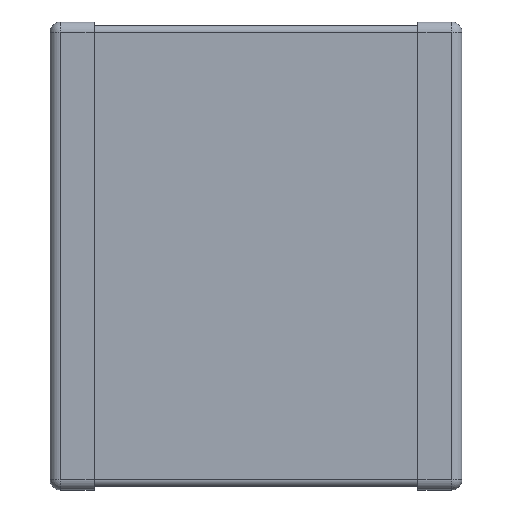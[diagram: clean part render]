
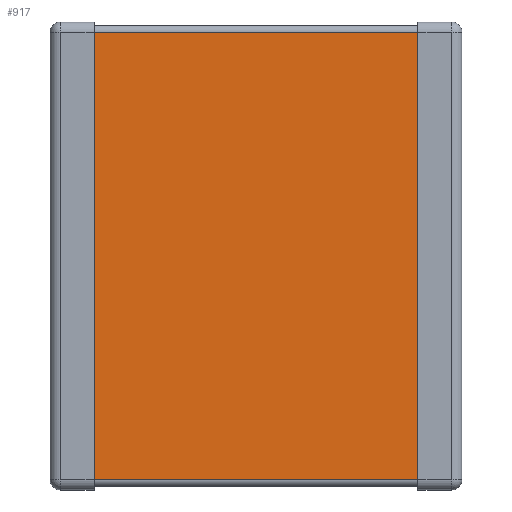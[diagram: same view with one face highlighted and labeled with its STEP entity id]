
A CAD part, front view. The second image highlights one B-rep face of the part: STEP entity #917.
In plain terms, the highlighted planar face has unit normal (0, -1, 0).
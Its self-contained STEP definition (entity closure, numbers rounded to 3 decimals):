
#27 = EDGE_CURVE ( 'NONE', #400, #821, #216, .T. ) ;
#36 = LINE ( 'NONE', #149, #249 ) ;
#44 = VERTEX_POINT ( 'NONE', #870 ) ;
#71 = ORIENTED_EDGE ( 'NONE', *, *, #405, .T. ) ;
#98 = CARTESIAN_POINT ( 'NONE',  ( -2.195, 0.047, 3.035 ) ) ;
#129 = CARTESIAN_POINT ( 'NONE',  ( -2.195, 0.047, -3.035 ) ) ;
#135 = VECTOR ( 'NONE', #879, 1000. ) ;
#149 = CARTESIAN_POINT ( 'NONE',  ( 500000., 0.047, -3.035 ) ) ;
#216 = LINE ( 'NONE', #494, #1268 ) ;
#249 = VECTOR ( 'NONE', #550, 1000. ) ;
#255 = EDGE_CURVE ( 'NONE', #44, #747, #36, .T. ) ;
#262 = CARTESIAN_POINT ( 'NONE',  ( -2.195, 0.047, 3.035 ) ) ;
#295 = PLANE ( 'NONE',  #488 ) ;
#299 = ORIENTED_EDGE ( 'NONE', *, *, #27, .T. ) ;
#301 = ORIENTED_EDGE ( 'NONE', *, *, #255, .F. ) ;
#304 = DIRECTION ( 'NONE',  ( 0., 1., 0. ) ) ;
#322 = LINE ( 'NONE', #98, #135 ) ;
#358 = LINE ( 'NONE', #433, #1232 ) ;
#400 = VERTEX_POINT ( 'NONE', #690 ) ;
#405 = EDGE_CURVE ( 'NONE', #821, #747, #322, .T. ) ;
#433 = CARTESIAN_POINT ( 'NONE',  ( 2.195, 0.047, 3.035 ) ) ;
#488 = AXIS2_PLACEMENT_3D ( 'NONE', #1269, #304, #703 ) ;
#494 = CARTESIAN_POINT ( 'NONE',  ( 500000., 0.047, 3.035 ) ) ;
#550 = DIRECTION ( 'NONE',  ( -1., 0., 0. ) ) ;
#690 = CARTESIAN_POINT ( 'NONE',  ( 2.195, 0.047, 3.035 ) ) ;
#703 = DIRECTION ( 'NONE',  ( 0., 0., 1. ) ) ;
#705 = FACE_OUTER_BOUND ( 'NONE', #1108, .T. ) ;
#747 = VERTEX_POINT ( 'NONE', #129 ) ;
#821 = VERTEX_POINT ( 'NONE', #262 ) ;
#832 = ORIENTED_EDGE ( 'NONE', *, *, #1210, .F. ) ;
#870 = CARTESIAN_POINT ( 'NONE',  ( 2.195, 0.047, -3.035 ) ) ;
#879 = DIRECTION ( 'NONE',  ( 0., 0., -1. ) ) ;
#880 = DIRECTION ( 'NONE',  ( -1., 0., 0. ) ) ;
#917 = ADVANCED_FACE ( 'NONE', ( #705 ), #295, .F. ) ;
#1022 = DIRECTION ( 'NONE',  ( 0., 0., -1. ) ) ;
#1108 = EDGE_LOOP ( 'NONE', ( #832, #299, #71, #301 ) ) ;
#1210 = EDGE_CURVE ( 'NONE', #400, #44, #358, .T. ) ;
#1232 = VECTOR ( 'NONE', #1022, 1000. ) ;
#1268 = VECTOR ( 'NONE', #880, 1000. ) ;
#1269 = CARTESIAN_POINT ( 'NONE',  ( 500000., 0.047, 3.035 ) ) ;
